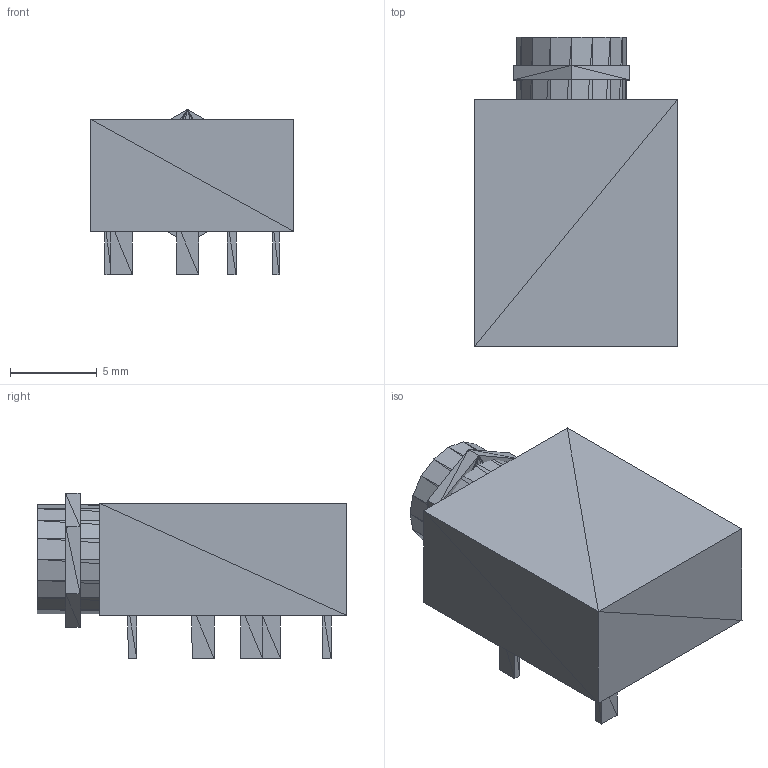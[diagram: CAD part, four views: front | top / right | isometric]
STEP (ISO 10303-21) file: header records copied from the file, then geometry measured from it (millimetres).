
FILE_DESCRIPTION(('HOOPS Exchange Step'),'2;1');
FILE_NAME('***.stp');
FILE_SCHEMA( ('AP242_MANAGED_MODEL_BASED_3D_ENGINEERING_MIM_LF {1 0 10303 442 1 1 4 }') );
Length unit declared in the file: inch
Products named in the file (15): PJ324M_2; PJ324M_3; PJ324M_4; PJ324M_5; PJ324M_6; PJ324M_7; PJ324M_8; PJ324M_9; PJ324M_10; PJ324M_11; PJ324M_12; PJ324M_13; PJ324M_14; PJ324M_15; PJ324M
Assembly tree (14 placements, depth 2):
  PJ324M
    PJ324M_2
    PJ324M_3
    PJ324M_4
    PJ324M_5
    PJ324M_6
    PJ324M_7
    PJ324M_8
    PJ324M_9
    PJ324M_10
    PJ324M_11
    PJ324M_12
    PJ324M_13
    PJ324M_14
    PJ324M_15
Bounding box: 11.69 x 17.78 x 9.51 mm (x, y, z)
Surface area: 3120.8 mm2 (no closed solid volume)
Topology: 0 solids, 1048 shells, 1048 faces, 1128 edges, 704 vertices
Faces by surface type: plane 1048
Entity records: 19650 total; most frequent: DIRECTION 3284, ORIENTED_EDGE 3144, CARTESIAN_POINT 2910, VECTOR 1128, LINE 1128, EDGE_CURVE 1128, AXIS2_PLACEMENT_3D 1078, PLANE 1048
